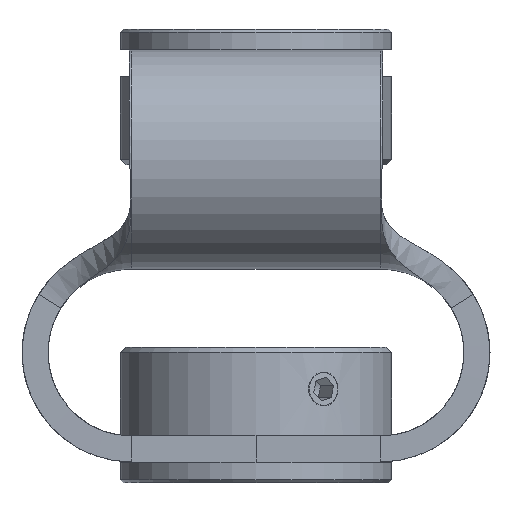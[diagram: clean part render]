
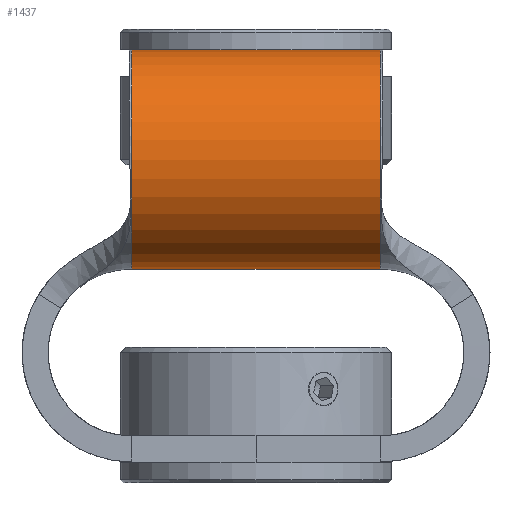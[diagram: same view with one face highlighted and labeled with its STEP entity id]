
A CAD part, front view. The second image highlights one B-rep face of the part: STEP entity #1437.
In plain terms, the highlighted cylindrical face has radius 10.5 mm (diameter 21 mm), a partial arc.
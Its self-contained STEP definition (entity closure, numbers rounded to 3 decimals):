
#122=CYLINDRICAL_SURFACE('',#1573,10.5);
#169=FACE_OUTER_BOUND('',#269,.T.);
#269=EDGE_LOOP('',(#1058,#1059,#1060,#1061));
#382=CIRCLE('',#1537,10.5);
#405=CIRCLE('',#1574,10.5);
#499=LINE('',#2379,#593);
#500=LINE('',#2382,#594);
#593=VECTOR('',#1861,23.867);
#594=VECTOR('',#1864,23.867);
#665=VERTEX_POINT('',#2241);
#666=VERTEX_POINT('',#2246);
#699=VERTEX_POINT('',#2378);
#700=VERTEX_POINT('',#2380);
#787=EDGE_CURVE('',#666,#665,#382,.T.);
#838=EDGE_CURVE('',#699,#665,#499,.T.);
#839=EDGE_CURVE('',#699,#700,#405,.T.);
#840=EDGE_CURVE('',#666,#700,#500,.T.);
#1058=ORIENTED_EDGE('',*,*,#787,.T.);
#1059=ORIENTED_EDGE('',*,*,#838,.F.);
#1060=ORIENTED_EDGE('',*,*,#839,.T.);
#1061=ORIENTED_EDGE('',*,*,#840,.F.);
#1437=ADVANCED_FACE('',(#169),#122,.T.);
#1537=AXIS2_PLACEMENT_3D('',#2247,#1762,#1763);
#1573=AXIS2_PLACEMENT_3D('',#2377,#1859,#1860);
#1574=AXIS2_PLACEMENT_3D('',#2381,#1862,#1863);
#1762=DIRECTION('center_axis',(1.,0.,0.));
#1763=DIRECTION('ref_axis',(0.,-1.,0.));
#1859=DIRECTION('center_axis',(-1.,0.,0.));
#1860=DIRECTION('ref_axis',(0.,-1.,0.));
#1861=DIRECTION('',(-1.,0.,0.));
#1862=DIRECTION('center_axis',(-1.,0.,0.));
#1863=DIRECTION('ref_axis',(0.,-1.,0.));
#1864=DIRECTION('',(1.,0.,0.));
#2241=CARTESIAN_POINT('',(35.5,-16.867,0.));
#2246=CARTESIAN_POINT('',(35.5,-16.867,21.));
#2247=CARTESIAN_POINT('Origin',(35.5,-16.867,10.5));
#2377=CARTESIAN_POINT('Origin',(47.434,-16.867,10.5));
#2378=CARTESIAN_POINT('',(59.367,-16.867,0.));
#2379=CARTESIAN_POINT('',(41.934,-16.867,0.));
#2380=CARTESIAN_POINT('',(59.367,-16.867,21.));
#2381=CARTESIAN_POINT('Origin',(59.367,-16.867,10.5));
#2382=CARTESIAN_POINT('',(41.934,-16.867,21.));
